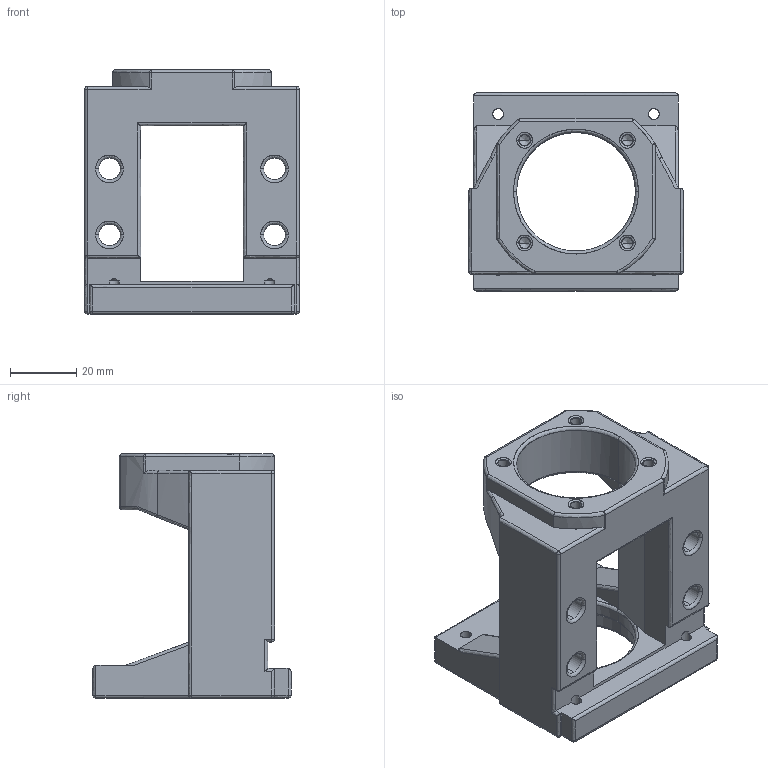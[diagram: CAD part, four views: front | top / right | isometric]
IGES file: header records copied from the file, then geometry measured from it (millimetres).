
Start section: SolidWorks IGES file using analytic representation for surfaces
Global section: file name: 0HC:\Users\117\Desktop\1061208網站3D圖檔問題處理\傳動座\外露型\MBA\美式MBA12-C.IGS; native system: SolidWorks 2017; preprocessor: SolidWorks 2017; author: 117; date: 171228.135535; units: millimetre
Bounding box: 65 x 60 x 74 mm (x, y, z)
Surface area: 26232.2 mm2 (no closed solid volume)
Topology: 0 solids, 0 shells, 242 faces, 2865 edges, 2837 vertices
Faces by surface type: revolution 146, bspline 96
